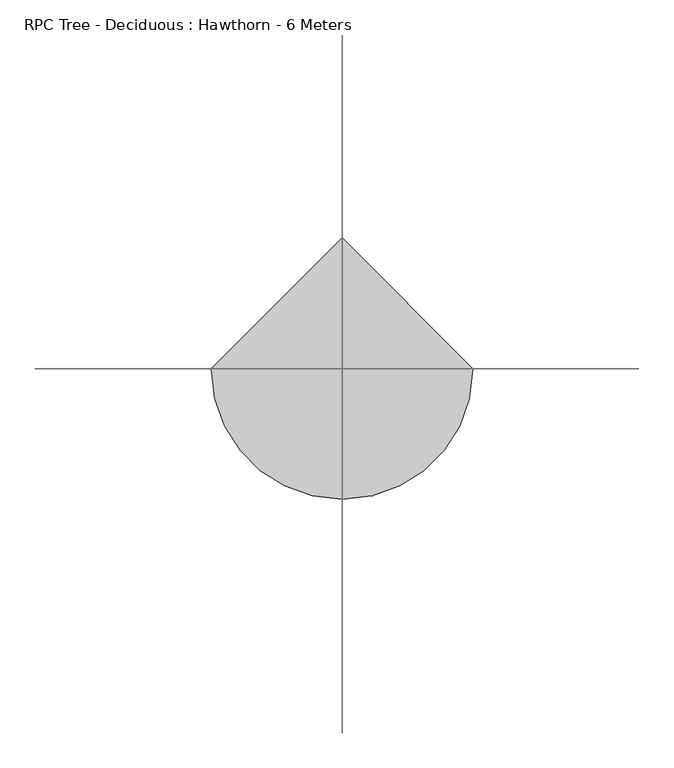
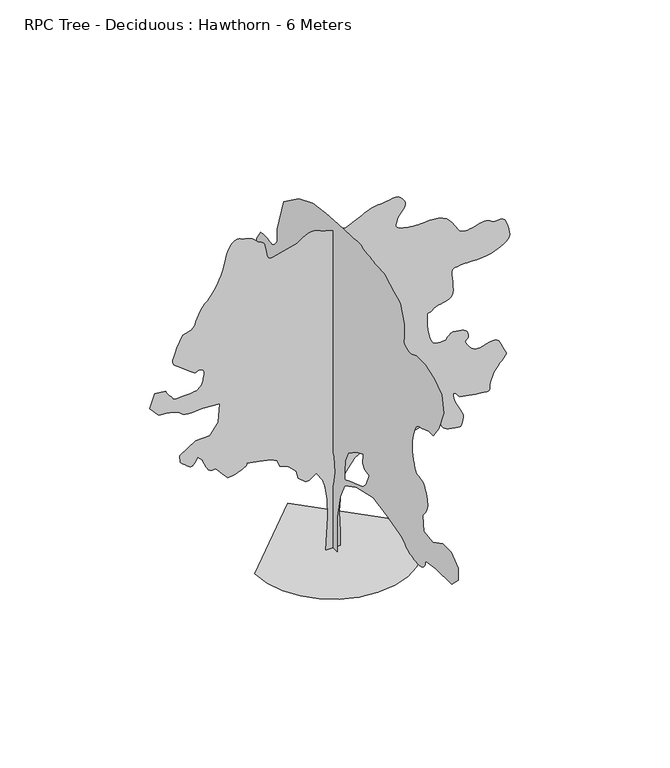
"""IFC4 building model written with IfcOpenShell, lengths in millimetres: geographic element geometry, RPC Tree - Deciduous : Hawthorn - 6 Meters."""

from ifc_helpers import new_model, si_unit, origin, place, context, project, spatial, triangles, source, transform, mapped, element, save


def rpc_tree_deciduous_hawthorn_6_meters_56216889(model_context):
    return source(origin(), model_context, "Body", "Tessellation", [
        triangles([(125.3016722, 0.0003108, 0.0152031), (-121.331484, 0.0003108, 0.0152031), (-86.0977153, 0.0002761, 581.3634241), (-94.9063073, 0.0002583, 880.8471062), (-130.1392676, 0.0002446, 1109.8629238), (-165.3730272, 0.0002362, 1250.7967632), (-279.8797188, 0.0002268, 1409.3465332), (-394.389626, 0.0002315, 1330.0707035), (-456.0475631, 0.000232, 1321.2626656), (-579.3634372, 0.0002257, 1426.9626091), (-614.5973694, 0.0002173, 1567.8964485), (-737.9132435, 0.00021, 1691.2123226), (-887.6551208, 0.0002063, 1752.8703323), (-931.6970547, 0.0002, 1858.5701305), (-1028.5889603, 0.0001968, 1911.4201023), (-1231.1787746, 0.0001942, 1955.4620361), (-1433.7706238, 0.0001921, 1990.6940426), (-1432.1785698, 0.0001926, 1983.0680546), (-1432.358646, 0.000193, 1974.9779961), (-1436.0825466, 0.0001936, 1965.9640114), (-1445.1225471, 0.0001942, 1955.5640648), (-1461.2485977, 0.0001949, 1943.3140858), (-1486.236462, 0.0001958, 1928.7540733), (-1521.8544914, 0.0001968, 1911.4201023), (-1561.5804096, 0.0001978, 1894.6000534), (-1598.0723682, 0.0001986, 1881.4761452), (-1631.8663811, 0.0001992, 1871.4362057), (-1663.5063103, 0.0001997, 1863.8602146), (-1693.5262802, 0.0002, 1858.1341106), (-1722.4662289, 0.0002003, 1853.6401989), (-1750.8703091, 0.0002005, 1849.7620926), (-1847.7622147, 0.0001942, 1955.4620361), (-1953.4620129, 0.0001869, 2078.7779102), (-1974.2120544, 0.0001871, 2075.23801), (-1994.8840485, 0.0001872, 2073.0779675), (-2015.3980579, 0.0001872, 2073.6979877), (-2035.6979816, 0.0001869, 2078.4779285), (-2055.6780121, 0.0001863, 2088.7979382), (-2075.2579216, 0.0001852, 2106.0579311), (-2094.397887, 0.0001837, 2131.6178535), (-2111.7379623, 0.000182, 2160.7979038), (-2126.2978294, 0.0001803, 2188.1178932), (-2138.5379253, 0.0001788, 2213.8978603), (-2148.9378719, 0.0001773, 2238.4578438), (-2157.9578156, 0.0001759, 2262.0777683), (-2166.0378456, 0.0001746, 2285.0977295), (-2173.6777863, 0.0001732, 2307.7976521), (-2252.9377739, 0.0001685, 2387.0776966), (-2305.7977741, 0.0001732, 2307.7976521), (-2315.3377441, 0.0001741, 2292.9177464), (-2325.5977283, 0.0001749, 2279.4377552), (-2337.2176586, 0.0001755, 2268.7376816), (-2350.937606, 0.0001759, 2262.1777622), (-2367.4177048, 0.000176, 2261.1778233), (-2387.3776783, 0.0001756, 2267.1177223), (-2411.4975723, 0.0001748, 2281.3777531), (-2438.2175983, 0.0001736, 2301.5776829), (-2464.6574089, 0.0001723, 2323.3376919), (-2489.3774117, 0.000171, 2344.9376816), (-2511.0374268, 0.0001698, 2364.6776104), (-2528.2174828, 0.0001689, 2380.877639), (-2539.5374313, 0.0001682, 2391.8375805), (-2543.6174149, 0.000168, 2395.8775955), (-2552.4174591, 0.0001606, 2519.1973938), (-2288.177774, 0.0001506, 2686.5572365), (-2050.357988, 0.0001501, 2695.3572807), (-1909.420079, 0.0001391, 2880.3372688), (-1882.9940758, 0.0001202, 3197.4368088), (-2173.6777863, 0.0001186, 3223.8567078), (-2235.7378063, 0.000119, 3216.5568626), (-2296.4977604, 0.0001194, 3210.816806), (-2354.6376709, 0.0001195, 3208.1367371), (-2408.8576172, 0.0001194, 3210.0967918), (-2457.8174194, 0.0001189, 3218.2169357), (-2500.2375046, 0.000118, 3234.0369003), (-2534.8173706, 0.0001165, 3259.0967079), (-2569.6373383, 0.0001149, 3285.9566963), (-2612.7774376, 0.0001137, 3306.7967033), (-2662.8572296, 0.0001127, 3322.6567818), (-2718.4773811, 0.000112, 3334.4967567), (-2778.2571625, 0.0001115, 3343.3165672), (-2840.8172974, 0.0001111, 3350.1565567), (-2904.7569992, 0.0001107, 3355.9765503), (-3054.4969872, 0.0001008, 3523.336393), (-2966.417189, 8.71e-05, 3752.3561348), (-2790.2573021, 8.82e-05, 3734.7362801), (-2778.8771828, 8.94e-05, 3714.0163239), (-2767.1973724, 9.06e-05, 3693.5164124), (-2754.8972511, 9.18e-05, 3673.4964134), (-2741.6573616, 9.3e-05, 3654.1563148), (-2727.1971977, 9.41e-05, 3635.7365089), (-2711.1973022, 9.51e-05, 3618.4962822), (-2693.3574028, 9.6e-05, 3602.6164375), (-2679.9774055, 9.69e-05, 3587.6365379), (-2673.6972656, 9.78e-05, 3573.4365326), (-2668.6374001, 9.85e-05, 3560.7765495), (-2658.9574677, 9.91e-05, 3550.436483), (-2638.797361, 9.96e-05, 3543.176461), (-2602.297554, 9.98e-05, 3539.7566116), (-2543.6174149, 9.97e-05, 3540.9565384), (-2478.5774895, 9.95e-05, 3544.7365402), (-2425.5375584, 9.93e-05, 3548.5165421), (-2382.5176552, 9.9e-05, 3552.276487), (-2347.5176113, 9.88e-05, 3556.0564888), (-2318.5376942, 9.86e-05, 3559.8364906), (-2293.5377666, 9.84e-05, 3563.6164925), (-2270.557774, 9.81e-05, 3567.3764374), (-2248.0578392, 9.71e-05, 3584.4564995), (-2226.497818, 9.61e-05, 3602.0763542), (-2206.7778008, 9.5e-05, 3620.7763756), (-2189.8177895, 9.37e-05, 3641.0762993), (-2176.5778999, 9.24e-05, 3663.5563225), (-2167.937875, 9.09e-05, 3688.7164146), (-2164.8578304, 8.92e-05, 3717.1164253), (-2161.7378174, 8.73e-05, 3748.6563606), (-2154.8978279, 8.54e-05, 3781.7363182), (-2148.2178577, 8.34e-05, 3814.6561111), (-2145.5578457, 8.15e-05, 3845.7361908), (-2150.7379074, 7.99e-05, 3873.2560226), (-2167.6378933, 7.86e-05, 3895.556115), (-2200.0978306, 7.77e-05, 3910.9162239), (-2232.6577618, 7.75e-05, 3914.3561302), (-2252.4378044, 7.79e-05, 3907.1559883), (-2267.1177223, 7.85e-05, 3897.0362572), (-2284.4377407, 7.88e-05, 3891.6961761), (-2312.0577118, 7.84e-05, 3898.8361473), (-2357.7177155, 7.68e-05, 3926.1559914), (-2429.1175724, 7.35e-05, 3981.3761673), (-2508.3375916, 6.98e-05, 4042.8759018), (-2572.1575333, 6.71e-05, 4088.3559746), (-2620.2575043, 6.49e-05, 4124.4360397), (-2652.317466, 6.29e-05, 4157.7558083), (-2668.0574936, 6.07e-05, 4194.8956924), (-2667.1572578, 5.79e-05, 4242.5358078), (-2649.3173584, 5.4e-05, 4307.2757515), (-2623.9174553, 4.99e-05, 4376.6157051), (-2600.3773224, 4.64e-05, 4434.8554642), (-2578.3574455, 4.35e-05, 4483.8556709), (-2557.5973755, 4.1e-05, 4525.4554573), (-2537.7375412, 3.89e-05, 4561.5154655), (-2518.4974365, 3.7e-05, 4593.8754089), (-2499.5776611, 3.51e-05, 4624.3752914), (-2463.8574577, 3.47e-05, 4632.1352829), (-2428.97761, 3.41e-05, 4641.115258), (-2395.7976585, 3.35e-05, 4652.5753143), (-2365.1576683, 3.25e-05, 4667.7354355), (-2337.9176159, 3.14e-05, 4687.8153145), (-2314.9177116, 2.98e-05, 4714.0552826), (-2296.977673, 2.78e-05, 4747.6953804), (-2284.1977844, 2.58e-05, 4781.6552261), (-2274.4977951, 2.41e-05, 4810.0552368), (-2265.5577885, 2.25e-05, 4835.9952232), (-2255.0777596, 2.09e-05, 4862.535173), (-2240.7377918, 1.91e-05, 4892.7949539), (-2220.2577919, 1.69e-05, 4929.8153687), (-2191.2778748, 1.41e-05, 4976.7148315), (-2161.0778286, 1.16e-05, 5019.515126), (-2136.2778889, 9.9e-06, 5047.3948196), (-2113.6378464, 8.7e-06, 5068.0150726), (-2089.897871, 7.4e-06, 5089.0951813), (-2061.8580128, 5.7e-06, 5118.3346756), (-2026.2580055, 3e-06, 5163.4545959), (-1979.8859814, -1.1e-06, 5232.1550537), (-1932.1720333, -5.9e-06, 5312.174588), (-1893.7041779, -1.03e-05, 5386.9549072), (-1862.9381779, -1.45e-05, 5457.7343079), (-1838.3361912, -1.86e-05, 5525.734227), (-1818.3561607, -2.26e-05, 5592.1947052), (-1801.4602444, -2.65e-05, 5658.3546204), (-1786.1021702, -3.05e-05, 5725.4144806), (-1767.3822372, -3.45e-05, 5792.7539749), (-1742.0362553, -3.83e-05, 5856.3942764), (-1710.9882957, -4.17e-05, 5912.6338669), (-1675.1643196, -4.43e-05, 5957.7741348), (-1635.4883984, -4.62e-05, 5988.1339096), (-1592.8863476, -4.69e-05, 5999.9942322), (-1548.2784599, -4.62e-05, 5989.6739319), (-1504.0324688, -4.51e-05, 5970.7942703), (-1461.7865009, -4.43e-05, 5957.3142792), (-1421.3926003, -4.36e-05, 5945.9940399), (-1382.6926369, -4.29e-05, 5933.5942154), (-1345.5326958, -4.19e-05, 5916.8743057), (-1309.7607513, -4.05e-05, 5892.5943924), (-1275.2207085, -3.84e-05, 5857.5540894), (-1243.3507061, -3.65e-05, 5826.0542679), (-1215.4888166, -3.55e-05, 5809.5139984), (-1191.3228498, -3.5e-05, 5800.2343323), (-1170.5488272, -3.44e-05, 5790.4744629), (-1152.8548491, -3.33e-05, 5772.5540451), (-1137.9349022, -3.13e-05, 5738.754364), (-1125.4789038, -2.79e-05, 5681.3741455), (-1114.9509127, -2.4e-05, 5616.0542953), (-1104.8848846, -2.08e-05, 5563.1947311), (-1093.5849203, -1.84e-05, 5522.3745483), (-1079.3588991, -1.66e-05, 5493.0943588), (-1060.5089596, -1.56e-05, 5474.9146545), (-1035.3429811, -1.51e-05, 5467.3546509), (-1002.1630297, -1.53e-05, 5469.9748398), (-596.9814025, -2.16e-05, 5575.674202), (-549.7794508, -2.36e-05, 5609.2744766), (-502.5034847, -2.54e-05, 5640.5545441), (-455.0715325, -2.7e-05, 5667.1941971), (-407.4095798, -2.82e-05, 5686.9342712), (-359.4376534, -2.88e-05, 5697.3940979), (-311.0817023, -2.88e-05, 5696.3342789), (-262.2637337, -2.79e-05, 5681.3741455), (-213.9597962, -2.66e-05, 5660.5341385), (-167.0418388, -2.56e-05, 5642.9142838), (-121.2796793, -2.47e-05, 5627.9942642), (-76.4421273, -2.39e-05, 5615.2345779), (-32.2977674, -2.33e-05, 5604.0742126), (11.3841491, -2.27e-05, 5594.0143616), (54.8349478, -2.21e-05, 5584.4945938), (213.3857942, -2.1e-05, 5566.8747391), (460.0175606, -2.73e-05, 5672.5741013), (496.0215039, -2.87e-05, 5695.074472), (532.8734696, -3e-05, 5716.6342026), (571.4194453, -3.11e-05, 5736.3545105), (612.5073807, -3.22e-05, 5753.3145218), (656.9853344, -3.29e-05, 5766.5544113), (705.7013288, -3.35e-05, 5775.1940002), (759.5012426, -3.36e-05, 5778.2740448), (817.8971695, -3.39e-05, 5782.434256), (878.2971165, -3.45e-05, 5792.1342453), (938.3890881, -3.51e-05, 5803.2341492), (995.8610161, -3.56e-05, 5811.5539902), (1048.4029398, -3.57e-05, 5812.9341385), (1093.7029364, -3.51e-05, 5803.2341492), (1129.4508997, -3.36e-05, 5778.2740448), (1157.3388777, -3.17e-05, 5745.7545181), (1179.9888033, -2.99e-05, 5715.5546173), (1196.4747883, -2.82e-05, 5686.754631), (1205.8747959, -2.65e-05, 5658.3941528), (1207.2608305, -2.48e-05, 5629.5744003), (1199.7107826, -2.3e-05, 5599.3744995), (1182.2988367, -2.1e-05, 5566.8747391), (1160.7288597, -1.93e-05, 5537.2945679), (1141.3148558, -1.79e-05, 5514.6343231), (1124.0568975, -1.68e-05, 5496.1546371), (1108.9568745, -1.58e-05, 5479.0545181), (1096.0149319, -1.47e-05, 5460.5544846), (1085.2288897, -1.34e-05, 5437.9145874), (1076.5989658, -1.16e-05, 5408.31465), (1067.5089684, -9.7e-06, 5376.3945053), (1057.8029474, -8e-06, 5348.1747162), (1051.1769711, -6.5e-06, 5323.0349716), (1051.3309587, -5.2e-06, 5300.3549606), (1061.9629406, -3.9e-06, 5279.5347198), (1086.7689119, -2.7e-06, 5259.9347534), (1129.4508997, -1.6e-06, 5240.9545166), (1183.1208069, -6e-07, 5224.6549301), (1237.4087723, 1e-07, 5212.9748291), (1290.7726662, 5e-07, 5205.13461), (1341.6707222, 8e-07, 5200.394783), (1388.5626274, 9e-07, 5197.9548157), (1429.9086502, 1e-06, 5197.0548706), (1464.1665882, 1e-06, 5196.9147629), (1502.8665516, 9e-07, 5199.0547485), (1555.8964542, 6e-07, 5203.1946121), (1619.2484013, 5e-07, 5205.9345612), (1688.9182766, 6e-07, 5203.914917), (1760.9002201, 1.2e-06, 5193.7149582), (1831.1861916, 2.5e-06, 5171.9546585), (1895.7741096, 4.7e-06, 5135.2551544), (1949.6500362, 7.6e-06, 5086.7552078), (1992.4340527, 1.07e-05, 5034.0752838), (2027.0579567, 1.39e-05, 4980.6349411), (2056.4379948, 1.69e-05, 4929.8153687), (2083.497971, 1.96e-05, 4885.0151962), (2111.1779675, 2.17e-05, 4849.5952652), (2142.3978642, 2.31e-05, 4826.9751343), (2177.4178196, 2.37e-05, 4815.7153564), (2214.2578674, 2.4e-05, 4811.4153282), (2252.6577038, 2.39e-05, 4812.8751228), (2292.2776691, 2.35e-05, 4818.955275), (2332.8176365, 2.3e-05, 4828.5151566), (2373.997681, 2.23e-05, 4840.3751884), (2415.4576504, 2.15e-05, 4853.3953239), (2453.1177063, 2.1e-05, 4860.715226), (2490.1375397, 2.07e-05, 4866.6552704), (2525.9373894, 2.05e-05, 4869.8152519), (2559.8975258, 2.06e-05, 4868.815313), (2591.3772903, 2.1e-05, 4862.2552483), (2619.777301, 2.18e-05, 4848.7752571), (2644.4772469, 2.31e-05, 4826.9751343), (2672.0174263, 2.4e-05, 4810.9752388), (2707.2373695, 2.41e-05, 4810.0752937), (2747.0971458, 2.37e-05, 4815.6551857), (2788.4972351, 2.35e-05, 4819.0552689), (2828.3573021, 2.4e-05, 4811.695253), (2863.5772453, 2.56e-05, 4784.9152016), (2891.1171341, 2.88e-05, 4730.075235), (2912.8169724, 3.29e-05, 4661.5954033), (2930.9772011, 3.66e-05, 4599.5753517), (2943.1171577, 3.99e-05, 4544.0354279), (2946.7971657, 4.28e-05, 4494.9555748), (2939.5170868, 4.54e-05, 4452.3555588), (2918.8570107, 4.75e-05, 4416.2156136), (2882.2970329, 4.93e-05, 4386.5555054), (2838.617141, 5.09e-05, 4360.2556572), (2796.0171249, 5.24e-05, 4334.7357033), (2751.257357, 5.38e-05, 4310.7557716), (2701.0973373, 5.51e-05, 4289.0756996), (2642.317495, 5.62e-05, 4270.4756721), (2571.67733, 5.71e-05, 4255.7358742), (2485.9375053, 5.77e-05, 4245.6158524), (2402.1176216, 5.8e-05, 4240.515873), (2336.3177135, 5.81e-05, 4239.2557755), (2283.9377712, 5.8e-05, 4240.3158852), (2240.3177593, 5.79e-05, 4242.1358322), (2200.8778702, 5.79e-05, 4243.175885), (2160.9778347, 5.79e-05, 4241.9157875), (2115.9779652, 5.82e-05, 4236.8158081), (2072.5979095, 5.86e-05, 4231.3957901), (2039.7179398, 5.88e-05, 4227.9759407), (2015.8980274, 5.9e-05, 4223.175943), (1999.8039516, 5.96e-05, 4213.5957138), (1990.0199558, 6.07e-05, 4195.8558083), (1985.166037, 6.24e-05, 4166.5558525), (1983.8560879, 6.51e-05, 4122.3158203), (1987.4000576, 6.86e-05, 4062.8560776), (1994.9500328, 7.27e-05, 3994.0160934), (2001.877953, 7.7e-05, 3921.4559875), (2003.5779945, 8.12e-05, 3850.9161072), (1995.4120686, 8.5e-05, 3788.0763382), (1972.7619976, 8.79e-05, 3738.6363327), (1931.0061161, 8.97e-05, 3708.3163811), (1880.2881363, 9.07e-05, 3692.3161949), (1833.7302223, 9.14e-05, 3680.6363846), (1791.1781685, 9.2e-05, 3671.0962692), (1752.4782051, 9.25e-05, 3661.5765015), (1717.4762718, 9.32e-05, 3649.8964005), (1686.0162735, 9.42e-05, 3633.896505), (1657.9483646, 9.55e-05, 3611.4164818), (1633.6543533, 9.66e-05, 3593.876564), (1613.5224426, 9.69e-05, 3588.6763), (1597.3943573, 9.69e-05, 3587.616481), (1585.1203972, 9.72e-05, 3582.5563248), (1576.5424324, 9.83e-05, 3565.3364456), (1571.5084373, 0.0001005, 3527.756472), (1569.864497, 0.0001044, 3461.6764938), (1573.4604984, 0.0001095, 3377.1767097), (1583.5284885, 0.0001145, 3292.4967041), (1598.9864113, 0.0001193, 3211.8368019), (1618.7603497, 0.0001236, 3139.3368668), (1641.7704277, 0.0001272, 3079.1768761), (1666.9363335, 0.0001298, 3035.4969841), (1693.1822605, 0.0001312, 3012.4571114), (1723.330275, 0.0001317, 3003.6570671), (1758.5643162, 0.000132, 2999.1570511), (1795.3382343, 0.0001321, 2997.8969536), (1830.1102398, 0.000132, 2998.7968987), (1859.332148, 0.0001319, 3000.7770103), (1879.4660934, 0.0001318, 3002.757122), (1886.9660717, 0.0001317, 3003.6570671), (1889.7641567, 0.0001313, 3010.3970627), (1898.5720493, 0.0001303, 3027.4771248), (1914.0061363, 0.000129, 3050.096965), (1936.6820778, 0.0001276, 3073.4969902), (1967.2161152, 0.0001264, 3092.8969688), (2006.2179497, 0.0001258, 3103.4969032), (2054.3179207, 0.000126, 3100.5369095), (2103.9179455, 0.0001266, 3090.4168877), (2146.8778233, 0.0001271, 3081.0770508), (2183.0578823, 0.0001278, 3070.037027), (2212.2978127, 0.0001287, 3054.8370827), (2234.4778542, 0.00013, 3032.996846), (2249.3977283, 0.0001318, 3002.076931), (2256.9177635, 0.0001344, 2959.6170227), (2254.0977322, 0.0001366, 2921.217041), (2241.8577816, 0.0001379, 2899.457032), (2225.9378231, 0.0001387, 2887.2772522), (2212.0177425, 0.0001393, 2877.537149), (2205.8178303, 0.0001401, 2863.1772697), (2212.9977699, 0.0001417, 2837.1172325), (2239.2977634, 0.0001443, 2792.25718), (2275.0777016, 0.0001472, 2743.8174042), (2307.5976643, 0.0001492, 2710.0174324), (2337.9776413, 0.0001505, 2688.2373665), (2367.297654, 0.0001513, 2675.8773651), (2396.5976097, 0.0001516, 2670.2774162), (2426.9775867, 0.0001517, 2668.8373878), (2459.4975494, 0.0001517, 2668.9373817), (2499.7974152, 0.0001512, 2676.6372025), (2549.9574348, 0.0001502, 2693.8971954), (2605.7973404, 0.0001491, 2711.9173164), (2663.1973251, 0.0001485, 2721.9373444), (2717.9774117, 0.0001489, 2715.157235), (2765.9773888, 0.0001509, 2682.7972916), (2803.037336, 0.0001548, 2616.0775269), (2832.277121, 0.0001592, 2542.2773804), (2857.9772964, 0.0001623, 2490.5174583), (2877.6772568, 0.0001645, 2454.7574318), (2888.8972115, 0.000166, 2429.0376354), (2889.1971931, 0.0001673, 2407.2976833), (2876.0570068, 0.0001687, 2383.5776196), (2847.0770897, 0.0001706, 2351.8376965), (2812.9971931, 0.0001727, 2316.8376526), (2785.5773552, 0.0001745, 2286.7977711), (2763.6571815, 0.0001762, 2260.8776962), (2746.1573776, 0.0001776, 2238.2577106), (2731.9774292, 0.0001789, 2218.1178062), (2720.0174034, 0.0001802, 2199.6378296), (2709.1573105, 0.0001814, 2181.9578041), (2706.4571846, 0.0001811, 2183.897802), (2702.7771767, 0.000181, 2182.7778122), (2697.1574615, 0.0001813, 2175.6177841), (2688.6172852, 0.0001822, 2159.377787), (2676.1773468, 0.0001838, 2131.0379471), (2658.8374168, 0.0001864, 2087.5578976), (2635.6774933, 0.00019, 2025.9379669), (2618.2175125, 0.0001938, 1963.0380272), (2613.5372749, 0.0001965, 1916.4780785), (2613.9375412, 0.0001985, 1884.2501038), (2611.7373848, 0.0001996, 1864.3481209), (2599.1974525, 0.0002002, 1854.7702171), (2568.6373993, 0.0002003, 1853.5101196), (2512.3574043, 0.0002, 1858.5701305), (2443.7176987, 0.0001995, 1866.3761948), (2380.6176258, 0.000199, 1874.6461842), (2322.1377651, 0.0001985, 1883.3001617), (2267.3576786, 0.000198, 1892.2621147), (2215.3578003, 0.0001974, 1901.4561756), (2165.2178375, 0.0001969, 1910.8041515), (2115.9779652, 0.0001963, 1920.2281403), (2084.2979221, 0.000194, 1959.0060059), (2054.9979664, 0.000192, 1992.6200878), (2030.4580399, 0.0001906, 2015.917939), (2013.098053, 0.0001901, 2023.7180443), (2005.2979477, 0.0001909, 2010.877985), (2009.4379566, 0.0001932, 1972.2300533), (2027.8980217, 0.0001974, 1902.6120644), (2057.4379337, 0.0002022, 1821.9242569), (2090.4979797, 0.0002063, 1752.1761887), (2123.1179363, 0.00021, 1691.366383), (2151.2579338, 0.0002132, 1637.4884216), (2170.9378372, 0.0002161, 1588.5424267), (2178.1177769, 0.0002188, 1542.5244507), (2168.8378201, 0.0002215, 1497.4285114), (2155.0377903, 0.0002239, 1457.3946178), (2148.0379269, 0.0002257, 1427.3726131), (2142.7179028, 0.0002269, 1406.5985905), (2134.0178524, 0.0002277, 1394.2965797), (2116.8379417, 0.0002279, 1389.7006393), (2086.0979576, 0.0002278, 1392.0366886), (2036.6979206, 0.0002273, 1400.5366058), (1981.4940228, 0.0002266, 1411.5286674), (1935.8340191, 0.000226, 1422.6746441), (1898.4941471, 0.0002252, 1435.2065826), (1868.244104, 0.0002243, 1450.35653), (1843.8482094, 0.0002232, 1469.3606026), (1824.0741257, 0.0002218, 1493.4485218), (1807.690242, 0.0002199, 1523.8545147), (1797.340147, 0.000218, 1556.6484432), (1793.9262566, 0.0002162, 1586.6684132), (1793.5922653, 0.0002146, 1613.2983284), (1792.4882629, 0.0002133, 1635.9223835), (1786.7602695, 0.0002122, 1653.924337), (1772.5602642, 0.0002114, 1666.6863487), (1746.0322323, 0.000211, 1673.5963921), (1714.6242657, 0.0002108, 1676.6002785), (1687.8402901, 0.0002107, 1678.2183483), (1664.9084049, 0.0002107, 1678.6803841), (1645.056419, 0.0002107, 1678.2183483), (1627.5183907, 0.0002108, 1677.0623142), (1611.5183498, 0.0002109, 1675.4443897), (1596.2903549, 0.000211, 1673.5963921), (1384.8906132, 0.0002157, 1594.320417), (1243.9567738, 0.00021, 1691.2123226), (1087.3329037, 0.0002129, 1634.2184177), (1110.9088629, 0.0002139, 1619.9223427), (1131.188875, 0.0002148, 1605.1284782), (1144.8768476, 0.0002159, 1589.3384537), (1148.6768337, 0.000217, 1572.0524448), (1139.2928862, 0.0002182, 1552.772517), (1113.4308746, 0.0002195, 1531.0004448), (1067.7929626, 0.000221, 1506.2365494), (1018.4869606, 0.0002223, 1484.5125847), (980.7350498, 0.0002231, 1471.5686073), (949.9190529, 0.0002234, 1466.4846153), (921.4150515, 0.0002232, 1468.332613), (890.5991272, 0.0002228, 1476.1925983), (852.8491785, 0.000222, 1489.1345409), (803.5431765, 0.000221, 1506.2365494), (574.5254331, 0.0002168, 1576.7044865), (363.125655, 0.0002236, 1462.196505), (204.5757942, 0.0002362, 1250.7967632), (151.7268489, 0.0002451, 1101.0548859), (134.1096648, 0.0002562, 916.0810747), (107.6852966, 0.0002745, 607.789391), (125.3016722, 0.0002966, 237.8397703), (-9.68e-05, -124.0064751, 0.0126444), (-9.68e-05, 131.4368719, 0.0126596), (-7.97e-05, 139.9516592, 553.4734477), (-6.83e-05, 182.5254141, 834.461202), (-5.69e-05, 318.7616841, 1115.4489201), (-5.13e-05, 446.4835393, 1302.7726604), (-4.56e-05, 667.867301, 1456.038596), (-3.42e-05, 1051.0329391, 1626.3344513), (-2.28e-05, 1502.3164398, 1677.4223213), (-2.28e-05, 1766.2743107, 1515.6425159), (-2.28e-05, 1962.114101, 1490.0985809), (-1.71e-05, 2072.7978973, 1702.9682911), (-1.14e-05, 2251.6177963, 1728.5122261), (-5.7e-06, 2626.2574287, 1754.0563065), (0.0, 2847.6572868, 1771.0862263), (5.7e-06, 2958.337159, 1856.2342266), (5.7e-06, 2949.8370964, 1992.4699516), (1.14e-05, 3086.0569794, 2077.617952), (1.14e-05, 3124.1770363, 2085.0179363), (1.14e-05, 3161.0169388, 2093.0178841), (1.14e-05, 3195.31688, 2102.197847), (1.71e-05, 3225.8167625, 2113.1579338), (1.71e-05, 3251.2768364, 2126.5178741), (1.71e-05, 3270.3768333, 2142.8578651), (1.71e-05, 3281.8967697, 2162.7578133), (1.71e-05, 3288.6966454, 2186.6378963), (1.71e-05, 3294.6166328, 2214.0978481), (1.71e-05, 3299.776783, 2244.5377052), (2.28e-05, 3304.3366791, 2277.357795), (2.28e-05, 3308.4567764, 2311.9577179), (2.28e-05, 3312.2966583, 2347.7577129), (2.28e-05, 3315.9566093, 2384.1576714), (2.85e-05, 3171.2168976, 2562.9575134), (2.28e-05, 2856.1570587, 2579.9974617), (1.71e-05, 2668.8373878, 2443.7575218), (1.71e-05, 2657.3973885, 2441.4974854), (1.71e-05, 2627.3373047, 2436.0975243), (1.71e-05, 2585.0573273, 2429.6775673), (1.14e-05, 2536.9774132, 2424.2976631), (1.14e-05, 2489.4774055, 2422.0376266), (1.14e-05, 2448.9976089, 2424.9775635), (1.14e-05, 2421.9175758, 2435.2375477), (1.14e-05, 2403.4175423, 2452.5575661), (1.14e-05, 2384.4775646, 2474.8175446), (1.14e-05, 2365.1576683, 2501.1374496), (1.14e-05, 2345.5577019, 2530.757444), (1.71e-05, 2325.7176338, 2562.8374626), (1.71e-05, 2305.7377487, 2596.5574974), (1.71e-05, 2285.6777813, 2631.0774834), (2.28e-05, 2243.0978222, 2843.957222), (2.85e-05, 2421.9175758, 2980.1771049), (3.99e-05, 2558.1575157, 3210.0767349), (3.99e-05, 2336.7576576, 3414.4366447), (3.42e-05, 2106.8578823, 3337.7965553), (2.85e-05, 1962.114101, 3218.5968544), (2.85e-05, 1800.3322609, 3329.2967834), (3.42e-05, 1800.3322609, 3516.6164543), (4.56e-05, 1953.5980511, 3686.9162338), (4.56e-05, 1986.3419827, 3705.1363426), (4.56e-05, 2018.4980141, 3723.1962868), (4.56e-05, 2049.437986, 3740.9763062), (4.56e-05, 2078.6178909, 3758.2961792), (4.56e-05, 2105.3979424, 3775.0361458), (5.13e-05, 2129.1979431, 3791.016275), (5.13e-05, 2149.4378414, 3806.1162254), (5.13e-05, 2165.1977806, 3827.1762772), (5.13e-05, 2176.4978176, 3859.8362022), (5.13e-05, 2184.0778782, 3902.1961166), (5.69e-05, 2188.6578312, 3952.2761993), (5.69e-05, 2191.0178616, 4008.1960419), (5.69e-05, 2191.8978951, 4067.956057), (5.69e-05, 2192.0178005, 4129.6758362), (6.26e-05, 2081.3178715, 4299.9756157), (6.26e-05, 2077.3179703, 4300.8956177), (6.26e-05, 2066.0379902, 4303.1556541), (6.26e-05, 2048.4780155, 4306.015654), (6.26e-05, 2025.7179222, 4308.7157799), (6.26e-05, 1998.7800316, 4310.51567), (6.26e-05, 1968.7160236, 4310.6956009), (6.26e-05, 1936.5700207, 4308.4957352), (6.26e-05, 1902.4120766, 4303.5556297), (5.69e-05, 1866.6141163, 4297.1156158), (5.69e-05, 1830.6681999, 4290.8357666), (5.69e-05, 1796.0642075, 4286.3357506), (5.69e-05, 1764.2882401, 4285.2756409), (5.69e-05, 1736.8322124, 4289.2756874), (5.69e-05, 1715.1862953, 4299.9756157), (5.69e-05, 1697.6843113, 4315.3156677), (5.69e-05, 1681.5243965, 4331.9957542), (5.69e-05, 1666.480402, 4349.7955399), (5.69e-05, 1652.3303936, 4368.4955612), (5.69e-05, 1638.8504025, 4387.8557167), (5.69e-05, 1625.8163143, 4407.6556709), (5.69e-05, 1613.0083752, 4427.6957268), (6.83e-05, 1604.4924706, 4640.5554085), (7.97e-05, 1425.6826, 5236.594899), (8.54e-05, 991.4290192, 5551.6547379), (8.54e-05, 582.7194097, 5721.9344604), (7.97e-05, 208.0697851, 5773.0342484), (7.4e-05, -158.0654427, 5798.5739685), (6.83e-05, -515.6854926, 5815.6142075), (6.83e-05, -547.0394654, 5817.3943314), (6.83e-05, -593.435398, 5821.5539612), (6.83e-05, -649.0673584, 5826.3344833), (6.83e-05, -708.1253088, 5829.8941498), (6.83e-05, -764.7992477, 5830.4941132), (6.26e-05, -813.2811722, 5826.3344833), (6.26e-05, -847.7631517, 5815.6142075), (6.26e-05, -883.2371492, 5801.9941086), (6.26e-05, -934.4990639, 5790.1942474), (6.26e-05, -995.4430183, 5779.8541809), (6.26e-05, -1059.9609552, 5770.7140411), (5.69e-05, -1121.9468519, 5762.4744278), (5.69e-05, -1175.2948311, 5754.8341965), (5.69e-05, -1213.8967627, 5747.4945282), (5.69e-05, -1249.2967094, 5742.4140244), (5.69e-05, -1294.8247444, 5740.3345001), (5.69e-05, -1347.0546959, 5738.9944656), (5.13e-05, -1402.562645, 5736.1742889), (5.13e-05, -1457.9206032, 5729.6142242), (5.13e-05, -1509.7045063, 5717.0940582), (5.13e-05, -1554.4884007, 5696.3941589), (5.13e-05, -1597.8563931, 5670.1143677), (4.56e-05, -1647.0343506, 5642.4741943), (4.56e-05, -1701.0522743, 5613.7346695), (4.56e-05, -1758.9422001, 5584.0946182), (3.99e-05, -1819.7381985, 5553.7743759), (3.99e-05, -1882.4680904, 5523.0146255), (3.99e-05, -1946.1681267, 5492.0345398), (2.85e-05, -2065.3780014, 5194.0347061), (1.71e-05, -2056.8580273, 4921.5548264), (1.71e-05, -2049.8779301, 4908.7149124), (1.71e-05, -2044.8379761, 4895.5151367), (1.71e-05, -2043.6780178, 4881.5549423), (1.71e-05, -2048.3179962, 4866.4951057), (1.71e-05, -2060.7179661, 4849.93507), (1.71e-05, -2082.7779568, 4831.5152641), (1.71e-05, -2116.4578777, 4810.855188), (1.71e-05, -2156.8578827, 4794.43526), (1.14e-05, -2197.6978317, 4787.8153152), (1.14e-05, -2238.8977879, 4789.4152176), (1.14e-05, -2280.3977257, 4797.5551277), (1.14e-05, -2322.1377651, 4810.6150864), (1.14e-05, -2364.0176216, 4826.9550774), (1.14e-05, -2405.9576488, 4844.9153183), (5.7e-06, -2669.9172638, 4844.9153183), (0.0, -2933.8770241, 4759.7751663), (-5.7e-06, -3146.7567627, 4606.5153351), (-1.71e-05, -3197.8367844, 4308.4957352), (-2.28e-05, -3053.0970726, 3950.8759941), (-2.85e-05, -2899.8171844, 3737.9962555), (-2.85e-05, -2872.2371819, 3737.8561478), (-2.85e-05, -2843.3970818, 3736.8163857), (-2.85e-05, -2812.0173111, 3733.976152), (-2.85e-05, -2776.837191, 3728.4761971), (-2.85e-05, -2736.5972054, 3719.3761711), (-2.85e-05, -2690.0372566, 3705.8362999), (-2.28e-05, -2635.8574242, 3686.9162338), (-2.28e-05, -2581.5174271, 3668.6964157), (-2.28e-05, -2534.7775475, 3655.8364449), (-2.28e-05, -2494.8776573, 3645.3562706), (-2.28e-05, -2461.0974518, 3634.2764236), (-2.28e-05, -2432.6775295, 3619.6363289), (-2.28e-05, -2408.8776741, 3598.4364601), (-2.28e-05, -2388.9376122, 3567.696476), (-2.85e-05, -2369.4175827, 3523.5965515), (-2.85e-05, -2348.577721, 3467.1165688), (-2.85e-05, -2328.1577465, 3402.5966698), (-2.85e-05, -2309.9976631, 3334.356649), (-3.42e-05, -2295.8377716, 3266.7168823), (-3.42e-05, -2287.4977283, 3203.9768166), (-3.42e-05, -2286.7578026, 3150.4768845), (-3.99e-05, -2293.8377483, 3095.7569687), (-3.99e-05, -2306.8577385, 3030.7769234), (-3.99e-05, -2324.5177071, 2961.917173), (-4.56e-05, -2345.4376511, 2895.5770363), (-4.56e-05, -2368.2975929, 2838.1971085), (-5.13e-05, -2391.7576435, 2796.1371758), (-5.13e-05, -2414.477623, 2775.837252), (-5.13e-05, -2441.5375992, 2770.1771324), (-5.13e-05, -2476.6374916, 2765.997155), (-5.13e-05, -2516.3574509, 2760.6373077), (-5.13e-05, -2557.2773369, 2751.3971741), (-5.13e-05, -2595.9374771, 2735.6173233), (-5.69e-05, -2628.9572639, 2710.5973389), (-5.69e-05, -2652.8973724, 2673.6574425), (-5.69e-05, -2671.4572861, 2630.8373817), (-5.69e-05, -2689.8773827, 2589.637571), (-6.26e-05, -2706.9574448, 2549.6574532), (-6.26e-05, -2721.5173119, 2510.3976402), (-6.26e-05, -2732.337291, 2471.4575752), (-6.26e-05, -2738.2372215, 2432.3576363), (-6.83e-05, -2738.0372337, 2392.6575886), (-6.83e-05, -2731.1574211, 2353.7576374), (-6.83e-05, -2718.4773811, 2317.0976658), (-6.83e-05, -2700.9572296, 2282.2977551), (-6.83e-05, -2679.557373, 2248.9776958), (-6.83e-05, -2655.2574028, 2216.7777718), (-6.83e-05, -2629.0174347, 2185.3378304), (-6.83e-05, -2601.7972939, 2154.257896), (-7.97e-05, -2618.8375328, 1881.7781616), (-8.54e-05, -2891.3171219, 1847.7181767), (-8.54e-05, -3172.2967735, 1992.4699516), (-8.54e-05, -3419.2165855, 1992.4699516), (-9.68e-05, -3615.0563759, 1830.6901463), (-0.0001025, -3623.5764954, 1626.3344513), (-0.0001025, -3427.736705, 1439.0105656), (-9.68e-05, -2967.9371544, 1430.4945156), (-9.68e-05, -2678.4373833, 1387.9206608), (-9.68e-05, -2670.7773857, 1351.6526711), (-9.68e-05, -2660.8573517, 1316.7247158), (-9.68e-05, -2646.4974724, 1284.4787189), (-9.68e-05, -2625.4173637, 1256.2528255), (-9.68e-05, -2595.3973938, 1233.3888142), (-9.68e-05, -2554.2173492, 1217.2288267), (-9.68e-05, -2499.6375412, 1209.1107903), (-9.68e-05, -2441.0975098, 1207.9187845), (-9.68e-05, -2388.9576691, 1211.0467913), (-9.68e-05, -2342.3376949, 1217.6008244), (-9.11e-05, -2300.3377876, 1226.6867523), (-9.11e-05, -2262.0577114, 1237.410807), (-9.11e-05, -2226.6177235, 1248.8787117), (-9.11e-05, -2193.0978218, 1260.1988056), (-9.11e-05, -2158.857906, 1275.838694), (-9.11e-05, -2122.5378845, 1298.7766834), (-8.54e-05, -2085.1779556, 1325.8846218), (-8.54e-05, -2047.8180267, 1354.0366825), (-8.54e-05, -2011.4980053, 1380.1006439), (-8.54e-05, -1977.2740768, 1400.9546036), (-8.54e-05, -1946.1681267, 1413.4645958), (-7.4e-05, -1545.9745308, 1524.1584206), (-6.83e-05, -1171.3228352, 1592.2763557), (-6.26e-05, -668.9513191, 1473.0685158), (-6.26e-05, -336.8756584, 1294.2586452), (-6.83e-05, -209.1537851, 1030.3009924), (-7.97e-05, -124.0064751, 621.5914192), (-9.11e-05, -124.0064751, 280.9997267), (5.7e-06, 276.1877203, 1711.4823063), (5.7e-06, 301.7316916, 1566.730386), (0.0, 276.1877203, 1379.4066456), (-1.14e-05, 174.0106359, 1192.0807978), (-1.71e-05, 54.803945, 928.1230722), (-1.71e-05, -21.8291795, 1132.4768778), (-5.7e-06, -64.4029366, 1370.8905956), (0.0, -38.8585611, 1626.3344513), (5.7e-06, 54.803945, 1822.1742416), (1.14e-05, 139.9516592, 1890.2921768), (-2.85e-05, -873.3071594, 2179.7979069), (-2.85e-05, -677.4672964, 2094.6379887), (-2.85e-05, -447.5675574, 1941.3820816), (-3.42e-05, -362.4196298, 1754.0563065), (-3.99e-05, -345.3896736, 1558.2165161), (-4.56e-05, -345.3896736, 1413.4645958), (-4.56e-05, -481.6275061, 1464.5545006), (-4.56e-05, -711.5253193, 1541.186451), (-4.56e-05, -873.3071594, 1609.3064209), (-4.56e-05, -958.4550144, 1702.9682911), (-3.99e-05, -1043.6029421, 1898.8080814), (-3.42e-05, -915.8810869, 1932.8660316), (-3.42e-05, -864.7911095, 2018.0179562), (-1299.4087669, 0.0, 7.75e-05), (-1265.056794, -297.7377131, 5.97e-05), (-1167.2228674, -571.163429, 4.34e-05), (-1013.7389946, -812.4411798, 2.9e-05), (-812.4411798, -1013.7389946, 1.7e-05), (-571.163429, -1167.2208326, 7.9e-06), (-297.7377131, -1265.056794, 2e-06), (5.13e-05, -1299.4087669, 0.0), (297.7377131, -1265.056794, 2e-06), (571.163429, -1167.2208326, 7.9e-06), (812.4411798, -1013.7389946, 1.7e-05), (1013.7389946, -812.4411798, 2.9e-05), (1167.2208326, -571.163429, 4.34e-05), (1265.056794, -297.7377131, 5.97e-05), (1299.4087669, 0.0001136, 7.75e-05), (-0.0001765, 1299.4087669, 0.0001549)], [[403, 404, 405], [1, 2, 3], [491, 1, 3], [490, 491, 3], [490, 3, 4], [489, 490, 4], [489, 4, 5], [488, 489, 5], [84, 85, 86], [84, 86, 87], [83, 84, 87], [83, 87, 88], [83, 88, 89], [83, 89, 90], [82, 83, 90], [82, 90, 91], [82, 91, 92], [81, 82, 92], [81, 92, 93], [81, 93, 94], [81, 94, 95], [81, 95, 96], [81, 96, 97], [80, 81, 97], [80, 97, 98], [79, 80, 98], [79, 98, 99], [78, 79, 99], [78, 99, 100], [77, 78, 100], [77, 100, 101], [488, 5, 6], [487, 488, 6], [76, 77, 101], [76, 101, 102], [75, 76, 102], [74, 75, 102], [73, 74, 102], [73, 102, 103], [72, 73, 103], [72, 103, 104], [71, 72, 104], [71, 104, 105], [70, 71, 105], [70, 105, 106], [70, 106, 107], [69, 70, 107], [68, 69, 107], [68, 107, 108], [68, 108, 109], [68, 109, 110], [68, 110, 111], [68, 111, 112], [63, 64, 65], [62, 63, 65], [61, 62, 65], [60, 61, 65], [59, 60, 65], [58, 59, 65], [57, 58, 65], [56, 57, 65], [55, 56, 65], [54, 55, 65], [53, 54, 65], [52, 53, 65], [51, 52, 65], [50, 51, 65], [49, 50, 65], [48, 49, 65], [48, 65, 66], [47, 48, 66], [30, 31, 32], [467, 468, 469], [487, 6, 7], [486, 487, 7], [68, 112, 113], [8, 9, 10], [7, 8, 10], [7, 10, 11], [29, 30, 32], [414, 415, 416], [414, 416, 417], [413, 414, 417], [413, 417, 418], [412, 413, 418], [412, 418, 419], [141, 142, 143], [411, 412, 419], [411, 419, 420], [12, 13, 14], [28, 29, 32], [424, 425, 426], [27, 28, 32], [442, 443, 444], [441, 442, 444], [441, 444, 445], [440, 441, 445], [440, 445, 446], [439, 440, 446], [439, 446, 447], [438, 439, 447], [437, 438, 447], [436, 437, 447], [436, 447, 448], [435, 436, 448], [435, 448, 449], [435, 449, 450], [435, 450, 451], [435, 451, 452], [435, 452, 453], [435, 453, 454], [435, 454, 455], [435, 455, 456], [434, 435, 456], [434, 456, 457], [433, 434, 457], [433, 457, 458], [432, 433, 458], [432, 458, 459], [431, 432, 459], [431, 459, 460], [431, 460, 461], [430, 431, 461], [430, 461, 462], [430, 462, 463], [430, 463, 464], [411, 420, 421], [410, 411, 421], [410, 421, 422], [409, 410, 422], [409, 422, 423], [408, 409, 423], [408, 423, 424], [408, 424, 426], [408, 426, 427], [408, 427, 428], [407, 408, 428], [430, 464, 465], [406, 407, 428], [473, 474, 475], [472, 473, 475], [472, 475, 476], [471, 472, 476], [471, 476, 477], [470, 471, 477], [470, 477, 478], [470, 478, 479], [470, 479, 480], [470, 480, 481], [470, 481, 482], [470, 482, 483], [470, 483, 484], [470, 484, 485], [406, 428, 429], [26, 27, 32], [68, 113, 114], [25, 26, 32], [25, 32, 33], [24, 25, 33], [23, 24, 33], [22, 23, 33], [21, 22, 33], [20, 21, 33], [19, 20, 33], [18, 19, 33], [17, 18, 33], [46, 47, 66], [430, 465, 466], [45, 46, 66], [44, 45, 66], [43, 44, 66], [42, 43, 66], [41, 42, 66], [40, 41, 66], [39, 40, 66], [38, 39, 66], [37, 38, 66], [36, 37, 66], [35, 36, 66], [34, 35, 66], [33, 34, 66], [17, 33, 66], [17, 66, 67], [16, 17, 67], [15, 16, 67], [15, 67, 68], [68, 114, 115], [68, 115, 116], [68, 116, 117], [430, 466, 467], [430, 467, 469], [429, 430, 469], [403, 405, 406], [124, 125, 126], [123, 124, 126], [123, 126, 127], [403, 406, 429], [402, 403, 429], [401, 402, 429], [400, 401, 429], [399, 400, 429], [122, 123, 127], [122, 127, 128], [486, 7, 11], [486, 11, 12], [485, 486, 12], [485, 12, 14], [394, 395, 396], [393, 394, 396], [393, 396, 397], [392, 393, 397], [392, 397, 398], [391, 392, 398], [391, 398, 399], [391, 399, 429], [390, 391, 429], [389, 390, 429], [388, 389, 429], [387, 388, 429], [386, 387, 429], [385, 386, 429], [384, 385, 429], [383, 384, 429], [382, 383, 429], [381, 382, 429], [380, 381, 429], [379, 380, 429], [378, 379, 429], [377, 378, 429], [376, 377, 429], [376, 429, 469], [375, 376, 469], [374, 375, 469], [374, 469, 470], [374, 470, 485], [374, 485, 14], [373, 374, 14], [373, 14, 15], [373, 15, 68], [373, 68, 117], [373, 117, 118], [373, 118, 119], [372, 373, 119], [372, 119, 120], [325, 326, 327], [325, 327, 328], [324, 325, 328], [323, 324, 328], [323, 328, 329], [323, 329, 330], [322, 323, 330], [322, 330, 331], [321, 322, 331], [321, 331, 332], [320, 321, 332], [320, 332, 333], [319, 320, 333], [175, 176, 177], [174, 175, 177], [173, 174, 177], [173, 177, 178], [172, 173, 178], [172, 178, 179], [171, 172, 179], [170, 171, 179], [170, 179, 180], [170, 180, 181], [170, 181, 182], [170, 182, 183], [170, 183, 184], [169, 170, 184], [169, 184, 185], [168, 169, 185], [168, 185, 186], [167, 168, 186], [166, 167, 186], [166, 186, 187], [166, 187, 188], [166, 188, 189], [166, 189, 190], [166, 190, 191], [166, 191, 192], [166, 192, 193], [166, 193, 194], [166, 194, 195], [165, 166, 195], [164, 165, 195], [164, 195, 196], [163, 164, 196], [162, 163, 196], [162, 196, 197], [161, 162, 197], [160, 161, 197], [289, 290, 291], [289, 291, 292], [288, 289, 292], [288, 292, 293], [287, 288, 293], [287, 293, 294], [286, 287, 294], [286, 294, 295], [286, 295, 296], [286, 296, 297], [286, 297, 298], [286, 298, 299], [286, 299, 300], [286, 300, 301], [286, 301, 302], [286, 302, 303], [286, 303, 304], [286, 304, 305], [286, 305, 306], [285, 286, 306], [285, 306, 307], [284, 285, 307], [283, 284, 307], [282, 283, 307], [281, 282, 307], [280, 281, 307], [279, 280, 307], [278, 279, 307], [277, 278, 307], [276, 277, 307], [275, 276, 307], [275, 307, 308], [275, 308, 309], [274, 275, 309], [274, 309, 310], [273, 274, 310], [273, 310, 311], [273, 311, 312], [272, 273, 312], [272, 312, 313], [271, 272, 313], [271, 313, 314], [271, 314, 315], [271, 315, 316], [270, 271, 316], [270, 316, 317], [269, 270, 317], [268, 269, 317], [267, 268, 317], [266, 267, 317], [265, 266, 317], [264, 265, 317], [263, 264, 317], [262, 263, 317], [261, 262, 317], [260, 261, 317], [259, 260, 317], [258, 259, 317], [257, 258, 317], [256, 257, 317], [256, 317, 318], [255, 256, 318], [254, 255, 318], [253, 254, 318], [252, 253, 318], [252, 318, 319], [252, 319, 333], [252, 333, 334], [252, 334, 335], [252, 335, 336], [252, 336, 337], [252, 337, 338], [251, 252, 338], [250, 251, 338], [249, 250, 338], [249, 338, 339], [248, 249, 339], [369, 370, 371], [369, 371, 372], [368, 369, 372], [367, 368, 372], [366, 367, 372], [365, 366, 372], [364, 365, 372], [363, 364, 372], [362, 363, 372], [361, 362, 372], [360, 361, 372], [359, 360, 372], [358, 359, 372], [357, 358, 372], [356, 357, 372], [355, 356, 372], [354, 355, 372], [248, 339, 340], [140, 141, 143], [140, 143, 144], [139, 140, 144], [353, 354, 372], [132, 133, 134], [131, 132, 134], [131, 134, 135], [130, 131, 135], [130, 135, 136], [129, 130, 136], [129, 136, 137], [128, 129, 137], [122, 128, 137], [122, 137, 138], [122, 138, 139], [122, 139, 144], [122, 144, 145], [122, 145, 146], [121, 122, 146], [121, 146, 147], [120, 121, 147], [120, 147, 148], [120, 148, 149], [120, 149, 150], [120, 150, 151], [120, 151, 152], [120, 152, 153], [120, 153, 154], [120, 154, 155], [120, 155, 156], [120, 156, 157], [120, 157, 158], [120, 158, 159], [120, 159, 160], [120, 160, 197], [120, 197, 198], [120, 198, 199], [227, 228, 229], [227, 229, 230], [226, 227, 230], [226, 230, 231], [225, 226, 231], [225, 231, 232], [225, 232, 233], [225, 233, 234], [225, 234, 235], [225, 235, 236], [225, 236, 237], [225, 237, 238], [225, 238, 239], [225, 239, 240], [224, 225, 240], [224, 240, 241], [223, 224, 241], [223, 241, 242], [222, 223, 242], [222, 242, 243], [222, 243, 244], [222, 244, 245], [221, 222, 245], [220, 221, 245], [219, 220, 245], [218, 219, 245], [218, 245, 246], [217, 218, 246], [216, 217, 246], [215, 216, 246], [215, 246, 247], [214, 215, 247], [214, 247, 248], [214, 248, 340], [213, 214, 340], [212, 213, 340], [211, 212, 340], [211, 340, 341], [210, 211, 341], [209, 210, 341], [209, 341, 342], [208, 209, 342], [207, 208, 342], [207, 342, 343], [206, 207, 343], [205, 206, 343], [204, 205, 343], [203, 204, 343], [202, 203, 343], [201, 202, 343], [200, 201, 343], [199, 200, 343], [120, 199, 343], [120, 343, 344], [120, 344, 345], [120, 345, 346], [120, 346, 347], [120, 347, 348], [352, 353, 372], [351, 352, 372], [350, 351, 372], [349, 350, 372], [349, 372, 120], [349, 120, 348], [733, 741, 742], [741, 733, 734], [492, 731, 732], [492, 732, 733], [728, 492, 733], [727, 728, 733], [741, 734, 735], [733, 742, 743], [733, 743, 744], [741, 735, 736], [726, 727, 733], [726, 733, 744], [725, 726, 744], [724, 725, 744], [724, 744, 745], [724, 745, 746], [723, 724, 746], [723, 746, 747], [723, 747, 748], [741, 736, 737], [492, 493, 494], [723, 748, 749], [542, 543, 544], [542, 544, 545], [541, 542, 545], [541, 545, 546], [501, 502, 503], [500, 501, 503], [722, 723, 749], [506, 507, 508], [505, 506, 508], [641, 642, 643], [741, 737, 738], [696, 697, 698], [695, 696, 698], [695, 698, 699], [694, 695, 699], [693, 694, 699], [693, 699, 700], [692, 693, 700], [523, 524, 525], [522, 523, 525], [521, 522, 525], [521, 525, 526], [520, 521, 526], [519, 520, 526], [518, 519, 526], [517, 518, 526], [516, 517, 526], [515, 516, 526], [514, 515, 526], [513, 514, 526], [512, 513, 526], [511, 512, 526], [510, 511, 526], [509, 510, 526], [508, 509, 526], [505, 508, 526], [505, 526, 527], [505, 527, 528], [505, 528, 529], [505, 529, 530], [504, 505, 530], [504, 530, 531], [504, 531, 532], [504, 532, 533], [503, 504, 533], [503, 533, 534], [503, 534, 535], [500, 503, 535], [500, 535, 536], [500, 536, 537], [500, 537, 538], [500, 538, 539], [500, 539, 540], [500, 540, 541], [500, 541, 546], [500, 546, 547], [499, 500, 547], [641, 643, 644], [638, 639, 640], [638, 640, 641], [637, 638, 641], [637, 641, 644], [637, 644, 645], [637, 645, 646], [636, 637, 646], [636, 646, 647], [635, 636, 647], [634, 635, 647], [634, 647, 648], [634, 648, 649], [633, 634, 649], [633, 649, 650], [633, 650, 651], [632, 633, 651], [632, 651, 652], [632, 652, 653], [631, 632, 653], [631, 653, 654], [630, 631, 654], [630, 654, 655], [629, 630, 655], [629, 655, 656], [628, 629, 656], [749, 750, 751], [749, 751, 739], [563, 564, 565], [563, 565, 566], [563, 566, 567], [563, 567, 568], [563, 568, 569], [562, 563, 569], [562, 569, 570], [562, 570, 571], [562, 571, 572], [561, 562, 572], [561, 572, 573], [561, 573, 574], [560, 561, 574], [559, 560, 574], [559, 574, 575], [558, 559, 575], [557, 558, 575], [556, 557, 575], [555, 556, 575], [554, 555, 575], [553, 554, 575], [552, 553, 575], [551, 552, 575], [550, 551, 575], [549, 550, 575], [549, 575, 576], [549, 576, 577], [548, 549, 577], [548, 577, 578], [548, 578, 579], [498, 499, 547], [619, 620, 621], [628, 656, 657], [627, 628, 657], [586, 587, 588], [548, 579, 580], [618, 619, 621], [618, 621, 622], [618, 622, 623], [617, 618, 623], [617, 623, 624], [616, 617, 624], [615, 616, 624], [586, 588, 589], [585, 586, 589], [585, 589, 590], [585, 590, 591], [585, 591, 592], [627, 657, 658], [615, 624, 625], [614, 615, 625], [548, 580, 581], [498, 547, 548], [498, 548, 581], [498, 581, 582], [498, 582, 583], [498, 583, 584], [498, 584, 585], [498, 585, 592], [498, 592, 593], [497, 498, 593], [497, 593, 594], [497, 594, 595], [497, 595, 596], [497, 596, 597], [497, 597, 598], [497, 598, 599], [497, 599, 600], [497, 600, 601], [497, 601, 602], [497, 602, 603], [497, 603, 604], [497, 604, 605], [497, 605, 606], [497, 606, 607], [497, 607, 608], [497, 608, 609], [627, 658, 659], [613, 614, 625], [612, 613, 625], [611, 612, 625], [610, 611, 625], [609, 610, 625], [740, 741, 738], [626, 627, 659], [626, 659, 660], [722, 749, 739], [721, 722, 739], [609, 625, 626], [609, 626, 660], [609, 660, 661], [609, 661, 662], [609, 662, 663], [675, 676, 677], [674, 675, 677], [674, 677, 678], [673, 674, 678], [672, 673, 678], [672, 678, 679], [671, 672, 679], [671, 679, 680], [671, 680, 681], [671, 681, 682], [671, 682, 683], [671, 683, 684], [671, 684, 685], [671, 685, 686], [671, 686, 687], [671, 687, 688], [671, 688, 689], [671, 689, 690], [670, 671, 690], [670, 690, 691], [669, 670, 691], [692, 700, 701], [692, 701, 702], [692, 702, 703], [692, 703, 704], [692, 704, 705], [692, 705, 706], [692, 706, 707], [692, 707, 708], [692, 708, 709], [692, 709, 710], [692, 710, 711], [692, 711, 712], [692, 712, 713], [692, 713, 714], [692, 714, 715], [692, 715, 716], [692, 716, 717], [692, 717, 718], [692, 718, 719], [692, 719, 720], [692, 720, 721], [692, 721, 739], [691, 692, 739], [669, 691, 739], [668, 669, 739], [667, 668, 739], [666, 667, 739], [665, 666, 739], [664, 665, 739], [663, 664, 739], [609, 663, 739], [609, 739, 740], [609, 740, 738], [492, 494, 495], [731, 492, 495], [731, 495, 496], [731, 496, 497], [730, 731, 497], [729, 730, 497], [729, 497, 609], [729, 609, 738], [766, 767, 752], [765, 766, 752], [765, 752, 753], [764, 765, 753], [764, 753, 754], [764, 754, 755], [763, 764, 755], [762, 763, 755], [762, 755, 756], [762, 756, 757], [762, 757, 758], [762, 758, 759], [762, 759, 760], [762, 760, 761]], closed=False),
    ])


if __name__ == "__main__":
    model = new_model("IFC4")
    model_context = context("Model", 3, world=origin())
    ifc_project = project(units=[si_unit("LENGTHUNIT", "METRE", prefix="MILLI")], contexts=[model_context])
    site = spatial("IfcSite", under=ifc_project)
    building = spatial("IfcBuilding", under=site)
    placement = place(None, origin())
    rpc_tree_deciduous_hawthorn_6_meters_shape = rpc_tree_deciduous_hawthorn_6_meters_56216889(model_context)
    element("IfcGeographicElement", 1, ObjectType="RPC Tree - Deciduous : Hawthorn - 6 Meters", at=placement, inside=building, context=model_context, shape_type="MappedRepresentation", body=[
        mapped(rpc_tree_deciduous_hawthorn_6_meters_shape, transform((0.0, 0.0, 0.0), x_axis=(1.0, 0.0, 0.0), y_axis=(0.0, 1.0, 0.0), z_axis=(0.0, 0.0, 1.0))),
    ])
    save(model, "model.ifc")
